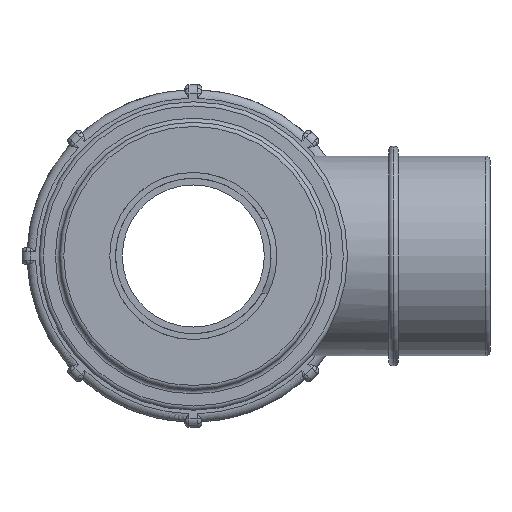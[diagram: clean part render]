
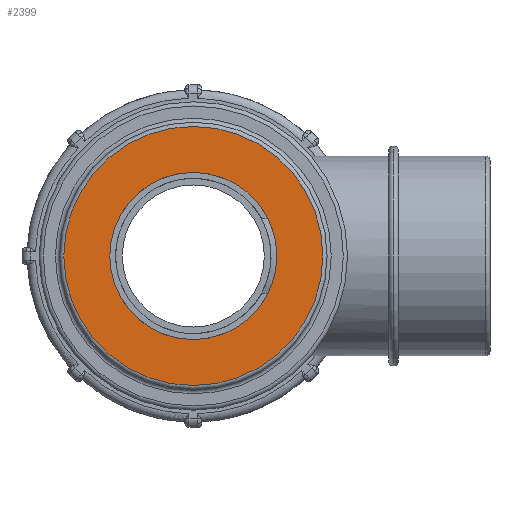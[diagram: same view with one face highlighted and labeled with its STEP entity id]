
A CAD part, left-side view. The second image highlights one B-rep face of the part: STEP entity #2399.
In plain terms, the highlighted planar face has unit normal (-1, 0, 0).
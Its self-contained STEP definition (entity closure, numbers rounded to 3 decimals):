
#329=PLANE('',#2581);
#382=FACE_BOUND('',#668,.T.);
#495=FACE_OUTER_BOUND('',#667,.T.);
#667=EDGE_LOOP('',(#1683));
#668=EDGE_LOOP('',(#1684));
#877=CIRCLE('',#2575,20.);
#878=CIRCLE('',#2577,31.);
#1072=VERTEX_POINT('',#3889);
#1073=VERTEX_POINT('',#3892);
#1315=EDGE_CURVE('',#1072,#1072,#877,.T.);
#1316=EDGE_CURVE('',#1073,#1073,#878,.T.);
#1683=ORIENTED_EDGE('',*,*,#1316,.F.);
#1684=ORIENTED_EDGE('',*,*,#1315,.T.);
#2399=ADVANCED_FACE('',(#495,#382),#329,.T.);
#2575=AXIS2_PLACEMENT_3D('',#3890,#2921,#2922);
#2577=AXIS2_PLACEMENT_3D('',#3893,#2925,#2926);
#2581=AXIS2_PLACEMENT_3D('',#3899,#2933,#2934);
#2921=DIRECTION('center_axis',(1.,0.,0.));
#2922=DIRECTION('ref_axis',(0.,0.,-1.));
#2925=DIRECTION('center_axis',(1.,0.,0.));
#2926=DIRECTION('ref_axis',(0.,-1.,0.));
#2933=DIRECTION('center_axis',(-1.,0.,0.));
#2934=DIRECTION('ref_axis',(0.,0.,1.));
#3889=CARTESIAN_POINT('',(-72.2,20.,0.));
#3890=CARTESIAN_POINT('Origin',(-72.2,0.,0.));
#3892=CARTESIAN_POINT('',(-72.2,31.,0.));
#3893=CARTESIAN_POINT('Origin',(-72.2,0.,0.));
#3899=CARTESIAN_POINT('Origin',(-72.2,32.,0.));
